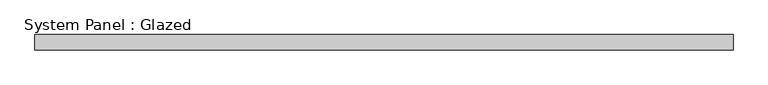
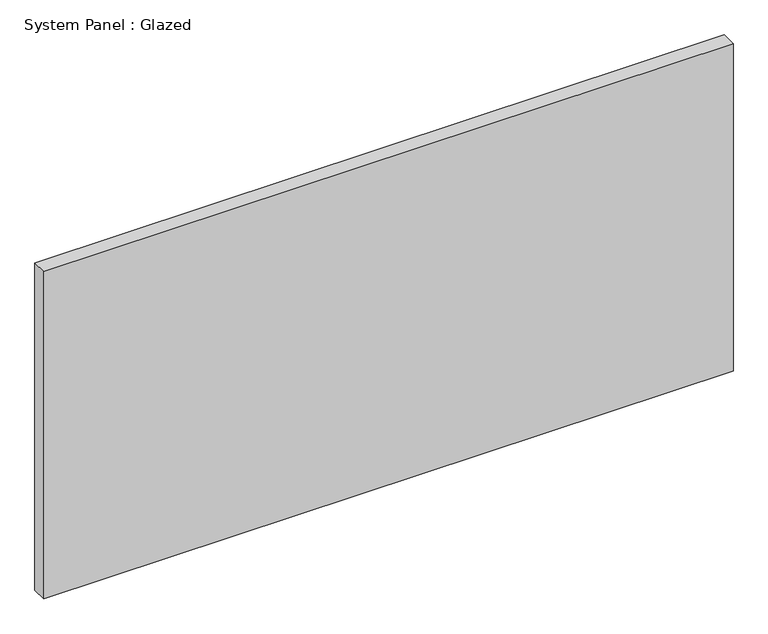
"""IFC4 building model written with IfcOpenShell, lengths in millimetres: plate geometry, System Panel : Glazed."""

from ifc_helpers import new_model, si_unit, origin, origin_with_axes, place, context, project, spatial, polyline, outline, extrude, source, transform, mapped, element, save


def system_panel_glazed_ced5f5b3(model_context):
    return source(origin(), model_context, "Body", "SweptSolid", [
        extrude(outline(polyline([(575.3100001, 19.05), (-575.3100001, 19.05), (-575.3100001, 44.45), (575.3100001, 44.45), (575.3100001, 19.05)])), origin_with_axes(), (0.0, 0.0, 1.0), 577.85),
    ])


if __name__ == "__main__":
    model = new_model("IFC4")
    model_context = context("Model", 3, world=origin())
    ifc_project = project(units=[si_unit("LENGTHUNIT", "METRE", prefix="MILLI")], contexts=[model_context])
    site = spatial("IfcSite", under=ifc_project)
    building = spatial("IfcBuilding", under=site)
    placement = place(None, origin())
    system_panel_glazed_shape = system_panel_glazed_ced5f5b3(model_context)
    element("IfcPlate", 1, ObjectType="System Panel : Glazed", at=placement, inside=building, context=model_context, shape_type="MappedRepresentation", body=[
        mapped(system_panel_glazed_shape, transform((0.0, 0.0, 0.0), x_axis=(1.0, 0.0, 0.0), y_axis=(0.0, 1.0, 0.0), z_axis=(0.0, 0.0, 1.0))),
    ])
    save(model, "model.ifc")
